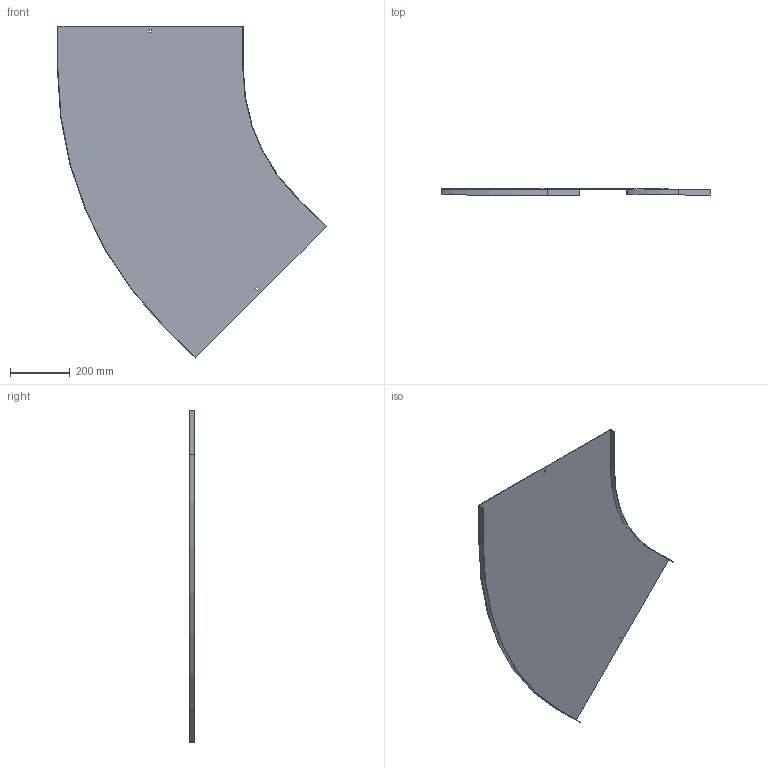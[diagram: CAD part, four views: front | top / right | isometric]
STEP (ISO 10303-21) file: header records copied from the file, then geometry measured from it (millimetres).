
FILE_DESCRIPTION (( 'STEP AP214' ), '1' );
FILE_NAME ('11N6P600.step', '2025-02-21T13:35:40', ( '' ), ( '' ), 'SwSTEP 2.0', 'SolidWorks 2023', '' );
FILE_SCHEMA (( 'AUTOMOTIVE_DESIGN' ));
Length unit declared in the file: millimetre
Products named in the file (1): 11N6P600
Bounding box: 901.43 x 20 x 1112.73 mm (x, y, z)
Volume: 996614.3 mm3; surface area: 1333912.6 mm2
Topology: 1 solids, 1 shells, 26 faces, 72 edges, 48 vertices
Faces by surface type: plane 22, cylinder 4
Entity records: 855 total; most frequent: CARTESIAN_POINT 147, ORIENTED_EDGE 144, DIRECTION 134, EDGE_CURVE 72, VECTOR 64, LINE 64, VERTEX_POINT 48, AXIS2_PLACEMENT_3D 35
